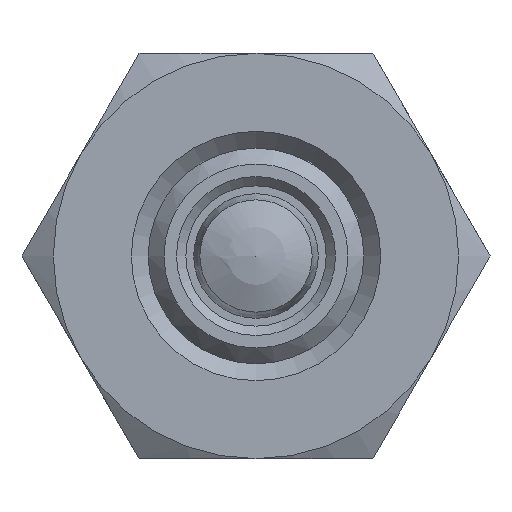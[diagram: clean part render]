
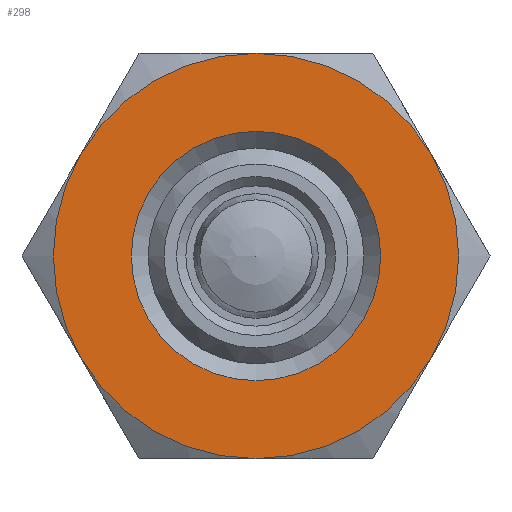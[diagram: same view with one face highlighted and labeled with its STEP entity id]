
A CAD part, front view. The second image highlights one B-rep face of the part: STEP entity #298.
In plain terms, the highlighted planar face has unit normal (0, -1, 0).
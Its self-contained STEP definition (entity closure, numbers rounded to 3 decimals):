
#298 = ADVANCED_FACE( '', ( #445, #446 ), #447, .F. );
#445 = FACE_BOUND( '', #595, .T. );
#446 = FACE_OUTER_BOUND( '', #596, .T. );
#447 = PLANE( '', #597 );
#595 = EDGE_LOOP( '', ( #937 ) );
#596 = EDGE_LOOP( '', ( #938, #939, #940, #941, #942, #943 ) );
#597 = AXIS2_PLACEMENT_3D( '', #944, #945, #946 );
#937 = ORIENTED_EDGE( '', *, *, #1046, .F. );
#938 = ORIENTED_EDGE( '', *, *, #1049, .T. );
#939 = ORIENTED_EDGE( '', *, *, #1050, .T. );
#940 = ORIENTED_EDGE( '', *, *, #1016, .T. );
#941 = ORIENTED_EDGE( '', *, *, #1041, .T. );
#942 = ORIENTED_EDGE( '', *, *, #1042, .T. );
#943 = ORIENTED_EDGE( '', *, *, #1043, .T. );
#944 = CARTESIAN_POINT( '', ( 6.5, 0., 0. ) );
#945 = DIRECTION( '', ( 0., 1., 0. ) );
#946 = DIRECTION( '', ( 0., 0., 1. ) );
#1016 = EDGE_CURVE( '', #1156, #1157, #1158, .T. );
#1041 = EDGE_CURVE( '', #1157, #1138, #1195, .T. );
#1042 = EDGE_CURVE( '', #1138, #1150, #1196, .T. );
#1043 = EDGE_CURVE( '', #1150, #1197, #1198, .T. );
#1046 = EDGE_CURVE( '', #1201, #1201, #1202, .T. );
#1049 = EDGE_CURVE( '', #1197, #1165, #1207, .T. );
#1050 = EDGE_CURVE( '', #1165, #1156, #1208, .T. );
#1138 = VERTEX_POINT( '', #1411 );
#1150 = VERTEX_POINT( '', #1445 );
#1156 = VERTEX_POINT( '', #1475 );
#1157 = VERTEX_POINT( '', #1476 );
#1158 = CIRCLE( '', #1477, 6.5 );
#1165 = VERTEX_POINT( '', #1497 );
#1195 = CIRCLE( '', #1597, 6.5 );
#1196 = CIRCLE( '', #1598, 6.5 );
#1197 = VERTEX_POINT( '', #1599 );
#1198 = CIRCLE( '', #1600, 6.5 );
#1201 = VERTEX_POINT( '', #1615 );
#1202 = CIRCLE( '', #1616, 4. );
#1207 = CIRCLE( '', #1621, 6.5 );
#1208 = CIRCLE( '', #1622, 6.5 );
#1411 = CARTESIAN_POINT( '', ( -6.5, 0., 0. ) );
#1445 = CARTESIAN_POINT( '', ( -3.25, 0., -5.629 ) );
#1475 = CARTESIAN_POINT( '', ( 3.25, 0., 5.629 ) );
#1476 = CARTESIAN_POINT( '', ( -3.25, 0., 5.629 ) );
#1477 = AXIS2_PLACEMENT_3D( '', #1713, #1714, #1715 );
#1497 = CARTESIAN_POINT( '', ( 6.5, 0., 0. ) );
#1597 = AXIS2_PLACEMENT_3D( '', #1740, #1741, #1742 );
#1598 = AXIS2_PLACEMENT_3D( '', #1743, #1744, #1745 );
#1599 = CARTESIAN_POINT( '', ( 3.25, 0., -5.629 ) );
#1600 = AXIS2_PLACEMENT_3D( '', #1746, #1747, #1748 );
#1615 = CARTESIAN_POINT( '', ( 0., 0., -4. ) );
#1616 = AXIS2_PLACEMENT_3D( '', #1749, #1750, #1751 );
#1621 = AXIS2_PLACEMENT_3D( '', #1758, #1759, #1760 );
#1622 = AXIS2_PLACEMENT_3D( '', #1761, #1762, #1763 );
#1713 = CARTESIAN_POINT( '', ( 0., 0., 0. ) );
#1714 = DIRECTION( '', ( 0., -1., 0. ) );
#1715 = DIRECTION( '', ( 0., 0., -1. ) );
#1740 = CARTESIAN_POINT( '', ( 0., 0., 0. ) );
#1741 = DIRECTION( '', ( 0., -1., 0. ) );
#1742 = DIRECTION( '', ( 0., 0., -1. ) );
#1743 = CARTESIAN_POINT( '', ( 0., 0., 0. ) );
#1744 = DIRECTION( '', ( 0., -1., 0. ) );
#1745 = DIRECTION( '', ( 0., 0., -1. ) );
#1746 = CARTESIAN_POINT( '', ( 0., 0., 0. ) );
#1747 = DIRECTION( '', ( 0., -1., 0. ) );
#1748 = DIRECTION( '', ( 0., 0., -1. ) );
#1749 = CARTESIAN_POINT( '', ( 0., 0., 0. ) );
#1750 = DIRECTION( '', ( 0., -1., 0. ) );
#1751 = DIRECTION( '', ( 0., 0., -1. ) );
#1758 = CARTESIAN_POINT( '', ( 0., 0., 0. ) );
#1759 = DIRECTION( '', ( 0., -1., 0. ) );
#1760 = DIRECTION( '', ( 0., 0., -1. ) );
#1761 = CARTESIAN_POINT( '', ( 0., 0., 0. ) );
#1762 = DIRECTION( '', ( 0., -1., 0. ) );
#1763 = DIRECTION( '', ( 0., 0., -1. ) );
